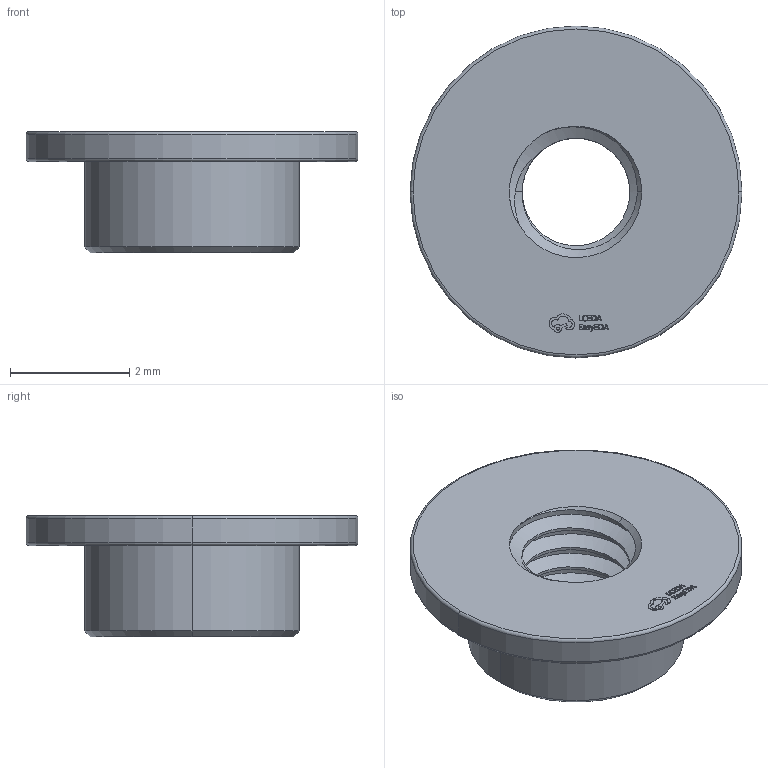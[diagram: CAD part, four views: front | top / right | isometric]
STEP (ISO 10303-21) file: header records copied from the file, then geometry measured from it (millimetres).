
FILE_DESCRIPTION(('Designed by EasyEDA Pro'),'2;1');
FILE_NAME('Open CASCADE Shape Model','2025-11-24T17:14:17',('Author'),( 'Open CASCADE'),'Open CASCADE STEP processor 7.6','Open CASCADE 7.8' ,'Unknown');
FILE_SCHEMA(('AUTOMOTIVE_DESIGN_CC2 { 1 2 10303 214 -1 1 5 4 }'));
Length unit declared in the file: millimetre
Products named in the file (4): PCBModel; YwPd-U1; SMD_BD5.6-D3.6_M2-0.4; SOLID
Assembly tree (3 placements, depth 4):
  PCBModel
    YwPd-U1
      SMD_BD5.6-D3.6_M2-0.4
        SOLID
Bounding box: 5.56 x 5.56 x 2.04 mm (x, y, z)
Volume: 20.9 mm3; surface area: 86.5 mm2
Topology: 1 solids, 1 shells, 253 faces, 686 edges, 455 vertices
Faces by surface type: plane 129, bspline 101, cylinder 13, cone 6, torus 4
Entity records: 12008 total; most frequent: CARTESIAN_POINT 4019, ORIENTED_EDGE 1372, DIRECTION 789, EDGE_CURVE 686, VERTEX_POINT 455, LINE 431, VECTOR 431, FACE_BOUND 275
